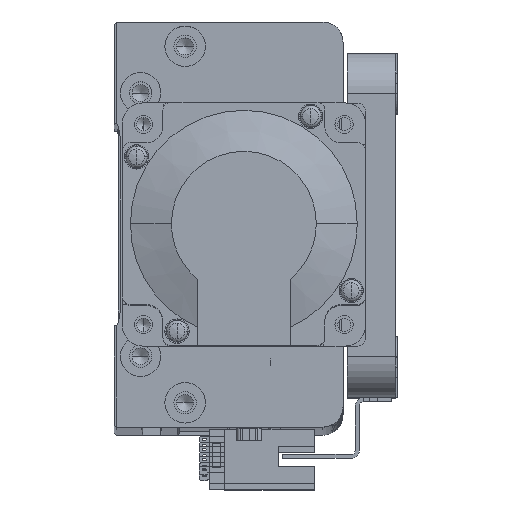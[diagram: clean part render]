
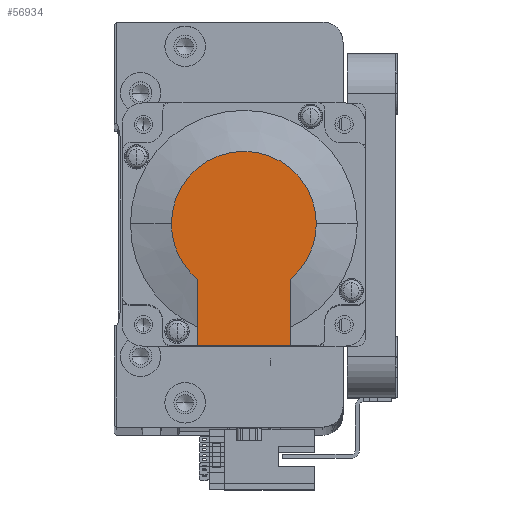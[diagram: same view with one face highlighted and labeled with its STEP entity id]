
A CAD part, top view. The second image highlights one B-rep face of the part: STEP entity #56934.
In plain terms, the highlighted planar face has unit normal (0, 0, 1) as drawn and (-1, 0, 0) by its records, which use the part's own axes.
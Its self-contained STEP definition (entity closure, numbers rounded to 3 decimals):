
#1496 = DIRECTION ( 'NONE',  ( -1., 0., 0. ) ) ;
#1737 = ORIENTED_EDGE ( 'NONE', *, *, #49609, .F. ) ;
#3676 = CARTESIAN_POINT ( 'NONE',  ( -118.5, 0., 0. ) ) ;
#3881 = CARTESIAN_POINT ( 'NONE',  ( -118.5, 0., 17.881 ) ) ;
#5641 = VECTOR ( 'NONE', #12787, 1000. ) ;
#5787 = CARTESIAN_POINT ( 'NONE',  ( -118.5, 30., 11.45 ) ) ;
#6443 = VECTOR ( 'NONE', #10047, 1000. ) ;
#7317 = DIRECTION ( 'NONE',  ( -1., 0., 0. ) ) ;
#8118 = EDGE_CURVE ( 'NONE', #18362, #37025, #12693, .T. ) ;
#8318 = DIRECTION ( 'NONE',  ( 0., 0., -1. ) ) ;
#9212 = ORIENTED_EDGE ( 'NONE', *, *, #46944, .T. ) ;
#10047 = DIRECTION ( 'NONE',  ( 0., -1., 0. ) ) ;
#11542 = CARTESIAN_POINT ( 'NONE',  ( -118.5, 0., 0. ) ) ;
#11547 = EDGE_LOOP ( 'NONE', ( #46824, #13015, #20494, #9212, #58940, #1737 ) ) ;
#12156 = FACE_OUTER_BOUND ( 'NONE', #11547, .T. ) ;
#12693 = CIRCLE ( 'NONE', #31594, 17.881 ) ;
#12787 = DIRECTION ( 'NONE',  ( 0., -1., 0. ) ) ;
#13015 = ORIENTED_EDGE ( 'NONE', *, *, #58647, .T. ) ;
#13928 = CARTESIAN_POINT ( 'NONE',  ( -118.5, 0., -17.881 ) ) ;
#16103 = DIRECTION ( 'NONE',  ( 0., 0., -1. ) ) ;
#17343 = CARTESIAN_POINT ( 'NONE',  ( -118.5, 0., 11.45 ) ) ;
#18014 = VERTEX_POINT ( 'NONE', #38579 ) ;
#18072 = VECTOR ( 'NONE', #41930, 1000. ) ;
#18362 = VERTEX_POINT ( 'NONE', #13928 ) ;
#18836 = AXIS2_PLACEMENT_3D ( 'NONE', #3676, #35630, #8318 ) ;
#19167 = CARTESIAN_POINT ( 'NONE',  ( -118.5, -8.941, -11.45 ) ) ;
#19549 = VERTEX_POINT ( 'NONE', #53429 ) ;
#20494 = ORIENTED_EDGE ( 'NONE', *, *, #8118, .T. ) ;
#20665 = CIRCLE ( 'NONE', #18836, 17.881 ) ;
#22320 = EDGE_CURVE ( 'NONE', #18014, #19549, #56517, .T. ) ;
#22717 = EDGE_CURVE ( 'NONE', #43091, #47628, #42133, .T. ) ;
#28061 = CARTESIAN_POINT ( 'NONE',  ( -118.5, 30., 25. ) ) ;
#28911 = CARTESIAN_POINT ( 'NONE',  ( -118.5, -8.941, 0. ) ) ;
#31594 = AXIS2_PLACEMENT_3D ( 'NONE', #34650, #7317, #39299 ) ;
#33476 = DIRECTION ( 'NONE',  ( 0., 0., 1. ) ) ;
#34650 = CARTESIAN_POINT ( 'NONE',  ( -118.5, 0., 0. ) ) ;
#34739 = CARTESIAN_POINT ( 'NONE',  ( -118.5, 13.735, 11.45 ) ) ;
#35630 = DIRECTION ( 'NONE',  ( -1., 0., 0. ) ) ;
#37025 = VERTEX_POINT ( 'NONE', #3881 ) ;
#38579 = CARTESIAN_POINT ( 'NONE',  ( -118.5, 30., -11.45 ) ) ;
#39299 = DIRECTION ( 'NONE',  ( 0., 0., -1. ) ) ;
#41930 = DIRECTION ( 'NONE',  ( 0., 0., 1. ) ) ;
#42133 = LINE ( 'NONE', #17343, #5641 ) ;
#43091 = VERTEX_POINT ( 'NONE', #5787 ) ;
#43258 = AXIS2_PLACEMENT_3D ( 'NONE', #11542, #43528, #16103 ) ;
#43528 = DIRECTION ( 'NONE',  ( -1., 0., 0. ) ) ;
#46824 = ORIENTED_EDGE ( 'NONE', *, *, #22320, .T. ) ;
#46944 = EDGE_CURVE ( 'NONE', #37025, #47628, #20665, .T. ) ;
#46970 = AXIS2_PLACEMENT_3D ( 'NONE', #28911, #1496, #33476 ) ;
#47018 = PLANE ( 'NONE',  #46970 ) ;
#47628 = VERTEX_POINT ( 'NONE', #34739 ) ;
#49609 = EDGE_CURVE ( 'NONE', #18014, #43091, #54592, .T. ) ;
#50989 = CIRCLE ( 'NONE', #43258, 17.881 ) ;
#53429 = CARTESIAN_POINT ( 'NONE',  ( -118.5, 13.735, -11.45 ) ) ;
#54592 = LINE ( 'NONE', #28061, #18072 ) ;
#56517 = LINE ( 'NONE', #19167, #6443 ) ;
#56934 = ADVANCED_FACE ( 'NONE', ( #12156 ), #47018, .T. ) ;
#58647 = EDGE_CURVE ( 'NONE', #19549, #18362, #50989, .T. ) ;
#58940 = ORIENTED_EDGE ( 'NONE', *, *, #22717, .F. ) ;
